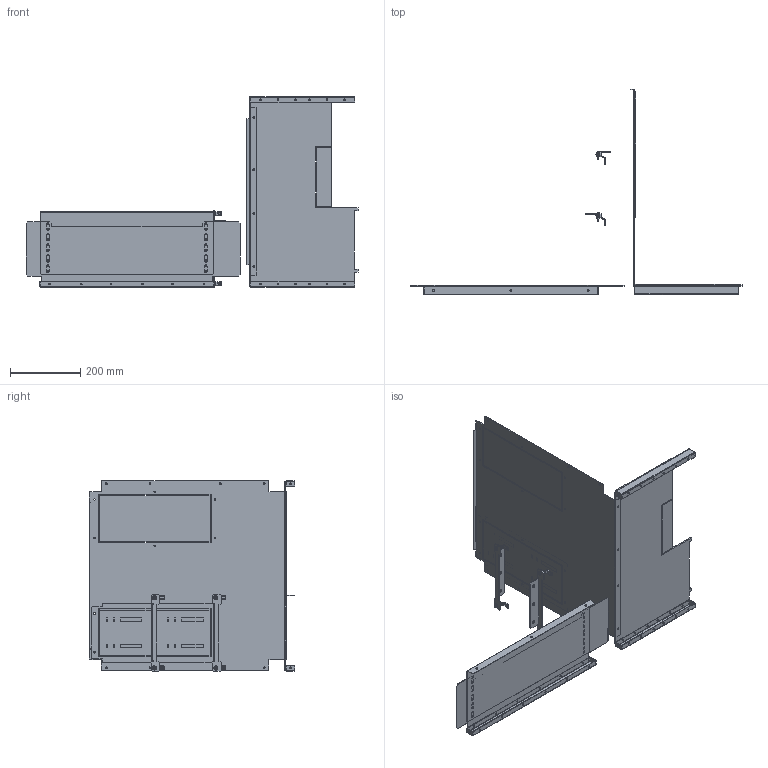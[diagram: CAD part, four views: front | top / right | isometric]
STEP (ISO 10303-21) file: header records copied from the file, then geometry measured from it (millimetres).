
FILE_DESCRIPTION(('CAx-IF Rec.Pracs.---Model Styling and Organization---1.2---2011-12-15','CAx-IF Rec.Pracs.---Geometric and Assembly Validation Properties---4.1---2014-06-16','CAx-IF Rec.Pracs.---PMI Polyline Presentation---2.0---2013-05-24'),'2;1');
FILE_NAME('R5FCMS66460 (NW08-25W).stp','2021-05-06T02:41:44+03:00',(''),(''),'STEP Interface 4.4 by CT CoreTechnologie','3D_Evolution4.4 by CT CoreTechnologie','');
FILE_SCHEMA(('AUTOMOTIVE_DESIGN { 1 0 10303 214 1 1 1 1 }'));
Length unit declared in the file: millimetre
Products named in the file (11): R5FCMS66460 (NW08-25W); M6x16-DIN 7985 ISR_thread; RB.0777.00.00.1_-02; RB.0776.00.00.1_-00; RB.0780.00.00.1_-00; RB.0779.00.00.1_-00; RB.0697.00.00.1_-01; AC00C485; RB.0697.00.00.1_-00; RB.1168.00.00.0_-00; RB.0778.00.00.1_-00
Assembly tree (18 placements, depth 2):
  R5FCMS66460 (NW08-25W)
    M6x16-DIN 7985 ISR_thread  x4
    RB.0777.00.00.1_-02
    RB.0776.00.00.1_-00
    RB.0780.00.00.1_-00  x2
    RB.0779.00.00.1_-00
    RB.0697.00.00.1_-01
    AC00C485  x4
    RB.0697.00.00.1_-00  x2
    RB.1168.00.00.0_-00
    RB.0778.00.00.1_-00
Bounding box: 945.9 x 585.5 x 544 mm (x, y, z)
Surface area: 1602874.1 mm2 (no closed solid volume)
Topology: 0 solids, 28 shells, 1052 faces, 2780 edges, 1772 vertices
Faces by surface type: plane 548, cylinder 436, bspline 68
Entity records: 23019 total; most frequent: CARTESIAN_POINT 4390, DIRECTION 3707, ORIENTED_EDGE 3680, EDGE_CURVE 1840, VECTOR 1285, LINE 1285, AXIS2_PLACEMENT_3D 1211, VERTEX_POINT 1198
